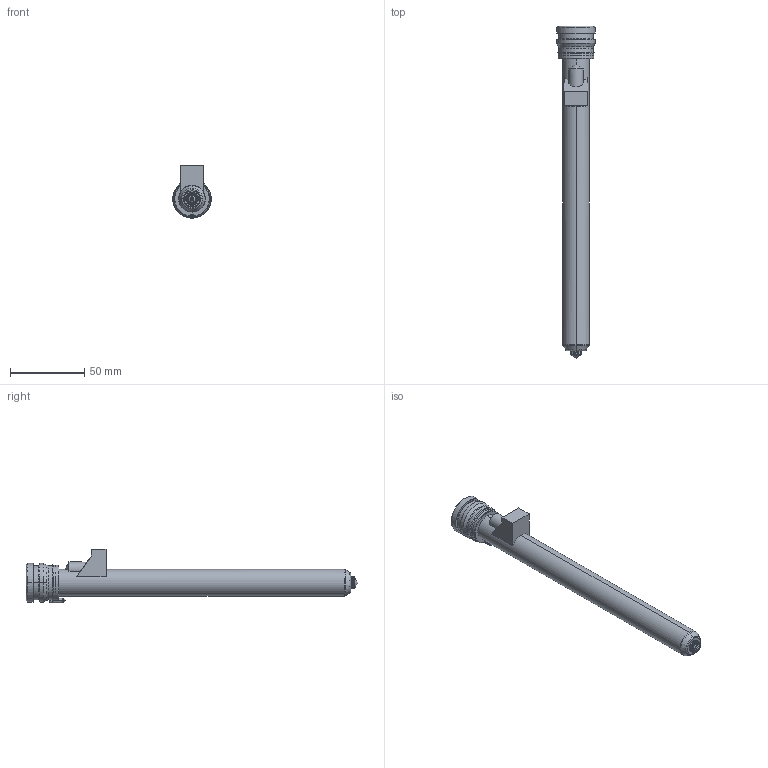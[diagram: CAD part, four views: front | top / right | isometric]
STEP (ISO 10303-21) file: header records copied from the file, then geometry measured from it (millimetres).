
FILE_DESCRIPTION((''),'2;1');
FILE_NAME('TH18206-M-1-PK-JG','2023-12-14T',('umhib'),('Thermoplay S.p.A.'),'PRO/ENGINEER BY PARAMETRIC TECHNOLOGY CORPORATION, 2017170','PRO/ENGINEER BY PARAMETRIC TECHNOLOGY CORPORATION, 2017170','');
FILE_SCHEMA(('CONFIG_CONTROL_DESIGN'));
Length unit declared in the file: millimetre
Products named in the file (1): TH18206-M-1-PK-JG
Bounding box: 26 x 224 x 36.1 mm (x, y, z)
Volume: 44108.9 mm3; surface area: 33003.9 mm2
Topology: 1 solids, 2 shells, 391 faces, 999 edges, 613 vertices
Faces by surface type: cylinder 149, plane 87, cone 62, torus 58, bspline 22, sphere 11, extrusion 2
Entity records: 16786 total; most frequent: CARTESIAN_POINT 5158, DIRECTION 2000, ORIENTED_EDGE 1972, EDGE_CURVE 988, AXIS2_PLACEMENT_3D 806, VERTEX_POINT 613, CIRCLE 438, EDGE_LOOP 414
